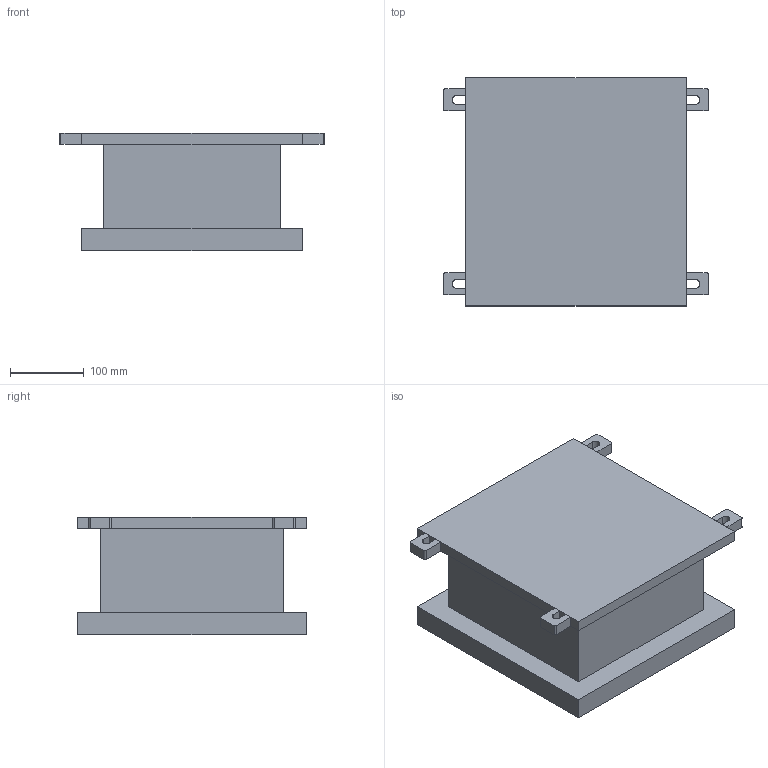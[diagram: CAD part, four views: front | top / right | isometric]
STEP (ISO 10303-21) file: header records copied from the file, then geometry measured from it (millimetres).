
FILE_DESCRIPTION((''),'2;1');
FILE_NAME('PRT0073','2025-12-30T09:20:44',('28740194'),(''),'CREO PARAMETRIC BY PTC INC, 2024063','CREO PARAMETRIC BY PTC INC, 2024063','');
FILE_SCHEMA(('CONFIG_CONTROL_DESIGN'));
Length unit declared in the file: millimetre
Products named in the file (1): PRT0073
Bounding box: 360.48 x 310 x 160 mm (x, y, z)
Volume: 11097827.8 mm3; surface area: 435324.8 mm2
Topology: 5 solids, 5 shells, 523 faces, 1473 edges, 982 vertices
Faces by surface type: plane 511, cylinder 12
Entity records: 16581 total; most frequent: CARTESIAN_POINT 2978, ORIENTED_EDGE 2946, DIRECTION 2543, EDGE_CURVE 1473, VECTOR 1449, LINE 1449, VERTEX_POINT 982, AXIS2_PLACEMENT_3D 547
